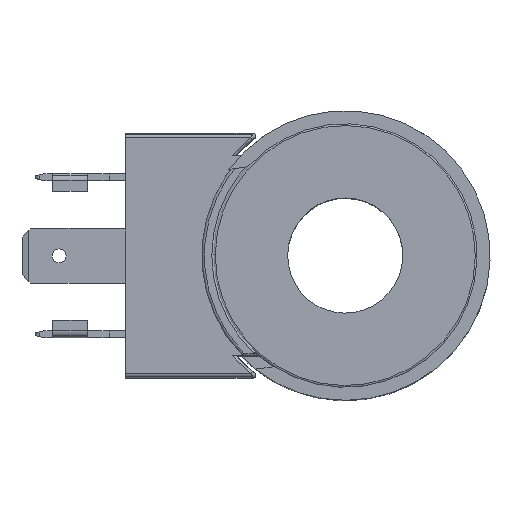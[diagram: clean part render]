
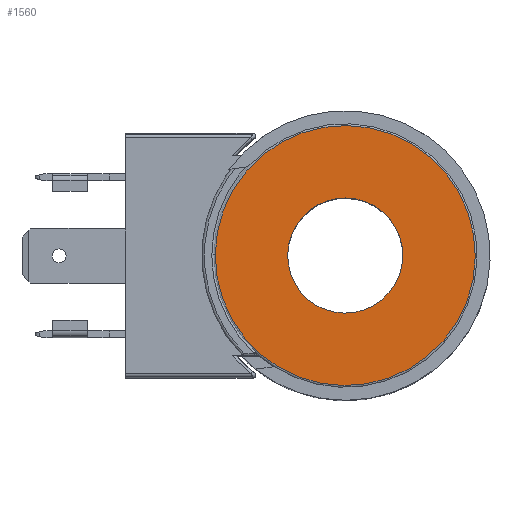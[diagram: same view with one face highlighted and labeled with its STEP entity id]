
A CAD part, top view. The second image highlights one B-rep face of the part: STEP entity #1560.
In plain terms, the highlighted planar face has unit normal (0, 0, 1).
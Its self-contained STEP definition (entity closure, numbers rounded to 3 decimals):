
#278 = ORIENTED_EDGE ( 'NONE', *, *, #18824, .F. ) ;
#942 = DIRECTION ( 'NONE',  ( 0., 0., -1. ) ) ;
#1333 = DIRECTION ( 'NONE',  ( 0., 0., -1. ) ) ;
#1542 = VERTEX_POINT ( 'NONE', #14461 ) ;
#1560 = ADVANCED_FACE ( 'NONE', ( #16658, #11953 ), #18256, .F. ) ;
#2227 = EDGE_LOOP ( 'NONE', ( #278, #5106 ) ) ;
#2583 = DIRECTION ( 'NONE',  ( -1., 0.01, 0. ) ) ;
#3343 = EDGE_CURVE ( 'NONE', #1542, #14027, #7347, .T. ) ;
#3529 = CIRCLE ( 'NONE', #17306, 6.6 ) ;
#5106 = ORIENTED_EDGE ( 'NONE', *, *, #11420, .F. ) ;
#5364 = CARTESIAN_POINT ( 'NONE',  ( 8.642, -12.392, 20.924 ) ) ;
#5470 = EDGE_LOOP ( 'NONE', ( #17356, #16814 ) ) ;
#5723 = AXIS2_PLACEMENT_3D ( 'NONE', #19859, #7425, #13553 ) ;
#5922 = CARTESIAN_POINT ( 'NONE',  ( -21.157, -12.097, 20.924 ) ) ;
#6640 = DIRECTION ( 'NONE',  ( 1., -0.01, 0. ) ) ;
#6840 = VERTEX_POINT ( 'NONE', #5364 ) ;
#7347 = CIRCLE ( 'NONE', #16956, 6.6 ) ;
#7425 = DIRECTION ( 'NONE',  ( 0., 0., -1. ) ) ;
#8362 = CARTESIAN_POINT ( 'NONE',  ( -6.258, -12.245, 20.924 ) ) ;
#9791 = EDGE_CURVE ( 'NONE', #14027, #1542, #3529, .T. ) ;
#10350 = AXIS2_PLACEMENT_3D ( 'NONE', #8362, #17280, #6640 ) ;
#10618 = CARTESIAN_POINT ( 'NONE',  ( -6.258, -12.245, 20.924 ) ) ;
#11152 = CARTESIAN_POINT ( 'NONE',  ( 0.342, -12.31, 20.924 ) ) ;
#11420 = EDGE_CURVE ( 'NONE', #6840, #15260, #19636, .T. ) ;
#11953 = FACE_OUTER_BOUND ( 'NONE', #2227, .T. ) ;
#13219 = CARTESIAN_POINT ( 'NONE',  ( -6.258, -12.245, 20.924 ) ) ;
#13553 = DIRECTION ( 'NONE',  ( -1., 0.01, 0. ) ) ;
#13815 = AXIS2_PLACEMENT_3D ( 'NONE', #19412, #1333, #18001 ) ;
#14027 = VERTEX_POINT ( 'NONE', #11152 ) ;
#14461 = CARTESIAN_POINT ( 'NONE',  ( -12.857, -12.179, 20.924 ) ) ;
#15260 = VERTEX_POINT ( 'NONE', #5922 ) ;
#15402 = CIRCLE ( 'NONE', #13815, 14.9 ) ;
#15919 = DIRECTION ( 'NONE',  ( -1., 0.01, 0. ) ) ;
#16325 = DIRECTION ( 'NONE',  ( 0., 0., -1. ) ) ;
#16658 = FACE_BOUND ( 'NONE', #5470, .T. ) ;
#16814 = ORIENTED_EDGE ( 'NONE', *, *, #9791, .T. ) ;
#16956 = AXIS2_PLACEMENT_3D ( 'NONE', #13219, #942, #15919 ) ;
#17280 = DIRECTION ( 'NONE',  ( 0., 0., -1. ) ) ;
#17306 = AXIS2_PLACEMENT_3D ( 'NONE', #10618, #16325, #2583 ) ;
#17356 = ORIENTED_EDGE ( 'NONE', *, *, #3343, .T. ) ;
#18001 = DIRECTION ( 'NONE',  ( 1., -0.01, 0. ) ) ;
#18256 = PLANE ( 'NONE',  #5723 ) ;
#18824 = EDGE_CURVE ( 'NONE', #15260, #6840, #15402, .T. ) ;
#19412 = CARTESIAN_POINT ( 'NONE',  ( -6.258, -12.245, 20.924 ) ) ;
#19636 = CIRCLE ( 'NONE', #10350, 14.9 ) ;
#19859 = CARTESIAN_POINT ( 'NONE',  ( -6.258, -12.245, 20.924 ) ) ;
